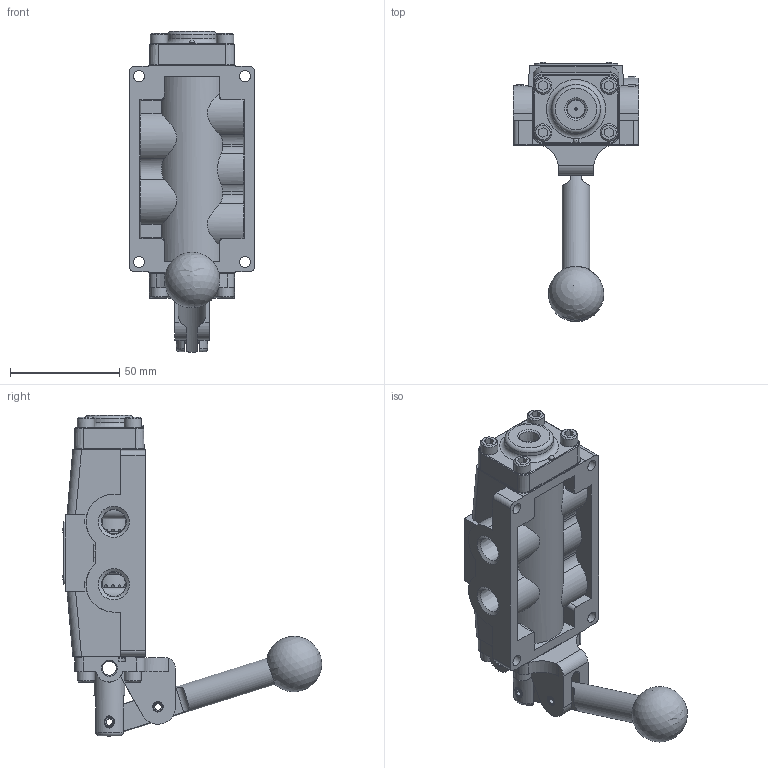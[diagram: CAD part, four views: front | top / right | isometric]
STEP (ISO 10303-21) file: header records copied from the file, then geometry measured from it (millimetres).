
FILE_DESCRIPTION(/* description */ (''),/* implementation_level */ '2;1');
FILE_NAME(/* name */ 'HR2JLOTSS.stp',/* time_stamp */ '2025-02-15T06:52:43-05:00',/* author */ ('rmckenna'),/* organization */ (''),/* preprocessor_version */ 'ST-DEVELOPER v20',/* originating_system */ 'Autodesk Inventor 2024',/* authorisation */ '');
FILE_SCHEMA (('AUTOMOTIVE_DESIGN { 1 0 10303 214 3 1 1 }'));
Length unit declared in the file: centimetre
Products named in the file (1): Part137
Bounding box: 57.15 x 118.54 x 146.73 mm (x, y, z)
Volume: 174579.9 mm3; surface area: 64385.3 mm2
Topology: 2 solids, 26 shells, 1137 faces, 2896 edges, 1848 vertices
Faces by surface type: plane 472, cone 248, cylinder 232, torus 97, bspline 84, sphere 4
Full cylindrical faces by diameter (mm): 1.016 x1, 2.07 x2, 2.261 x2, 2.778 x2, 3.175 x2, 3.683 x8, 4.75 x2, 4.763 x2, 4.826 x8, 4.978 x4, 5.08 x1, 5.156 x13, 6.528 x3, 7.798 x1, 7.938 x8, 7.95 x1, 9.525 x1, 9.728 x1, 11.113 x1, 11.303 x3, 12.141 x1, 12.7 x1, 14.275 x1, 14.986 x1, 18.618 x5, 18.745 x12, 19.177 x2, 23.825 x10
Entity records: 40190 total; most frequent: CARTESIAN_POINT 11591, ORIENTED_EDGE 5766, DIRECTION 5639, EDGE_CURVE 2883, AXIS2_PLACEMENT_3D 2183, VERTEX_POINT 1850, EDGE_LOOP 1289, LINE 1273
